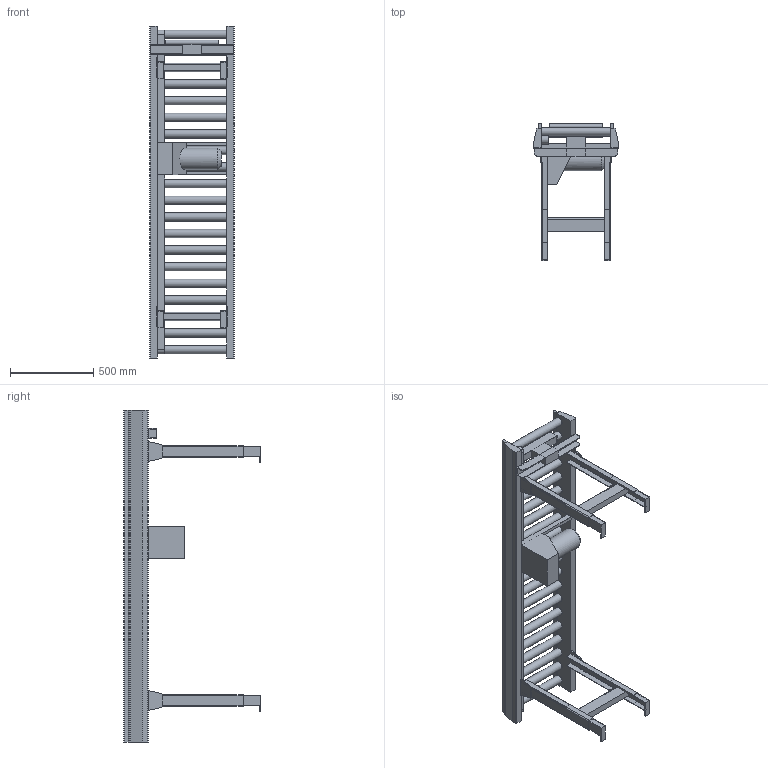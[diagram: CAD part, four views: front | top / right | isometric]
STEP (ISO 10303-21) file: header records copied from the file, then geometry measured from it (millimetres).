
FILE_DESCRIPTION((''),'2;1');
FILE_NAME('C:\Vault_Working_Folder\Designs\Inventor\Lättviktsmodeller\Klart\Midi\IRFS 50-100-420-2000.stp','2012-11-13T11:24:45',('martin.samuelsson'),(''),'Autodesk Inventor 2013','Autodesk Inventor 2013','');
FILE_SCHEMA(('AUTOMOTIVE_DESIGN { 1 0 10303 214 1 1 1 1 }'));
Length unit declared in the file: millimetre
Products named in the file (1): IRFS 50-100-420-2000
Bounding box: 510 x 825 x 2000 mm (x, y, z)
Volume: 51443293.1 mm3; surface area: 4850842.2 mm2
Topology: 7 solids, 8 shells, 302 faces, 839 edges, 516 vertices
Faces by surface type: plane 239, cylinder 62, cone 1
Full cylindrical faces by diameter (mm): 30 x1, 50 x20, 130 x1
Entity records: 9627 total; most frequent: CARTESIAN_POINT 1674, ORIENTED_EDGE 1632, DIRECTION 1581, EDGE_CURVE 816, VECTOR 641, LINE 641, VERTEX_POINT 515, AXIS2_PLACEMENT_3D 470
